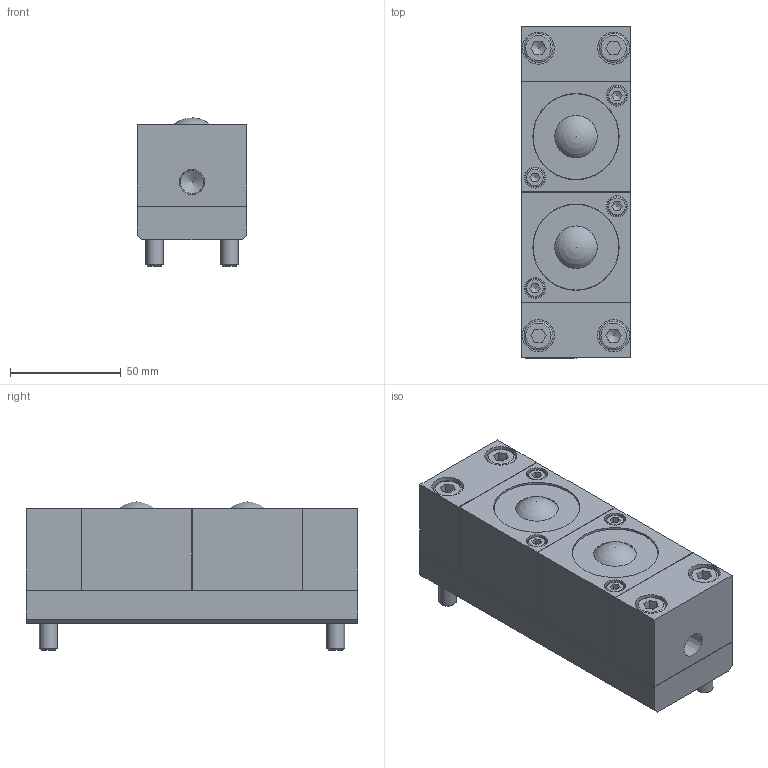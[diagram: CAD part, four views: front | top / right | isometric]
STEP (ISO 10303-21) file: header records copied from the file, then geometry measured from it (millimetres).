
FILE_DESCRIPTION(/* description */ (''),/* implementation_level */ '2;1');
FILE_NAME(/* name */ 'Z:\34-Tei\01-web 3Dデータ\41-ISR-50S型\ISR-50S-150-A.stp',/* time_stamp */ '2015-01-16T09:36:44+09:00',/* author */ ('yamaki'),/* organization */ (''),/* preprocessor_version */ 'ST-DEVELOPER v15.6',/* originating_system */ 'Autodesk Inventor 2015',/* authorisation */ '');
FILE_SCHEMA (('AUTOMOTIVE_DESIGN { 1 0 10303 214 3 1 1 }'));
Length unit declared in the file: millimetre
Products named in the file (5): 4200AT-01-150; 4200AT-02; 六角穴付きボルト-M8x55; 4200AT-00; ISR-50S
Bounding box: 49.5 x 150 x 67 mm (x, y, z)
Volume: 369240.5 mm3; surface area: 88911.5 mm2
Topology: 7 solids, 7 shells, 200 faces, 423 edges, 266 vertices
Faces by surface type: plane 143, cylinder 31, cone 14, torus 10, sphere 2
Full cylindrical faces by diameter (mm): 8 x2, 8.5 x4, 9 x2, 9.5 x4, 10.5 x1, 13 x4, 14.5 x4, 31.7 x2, 38.5 x2, 39 x2, 42 x4
Entity records: 3487 total; most frequent: CARTESIAN_POINT 592, DIRECTION 568, ORIENTED_EDGE 482, EDGE_CURVE 241, AXIS2_PLACEMENT_3D 199, EDGE_LOOP 192, LINE 170, VECTOR 170
